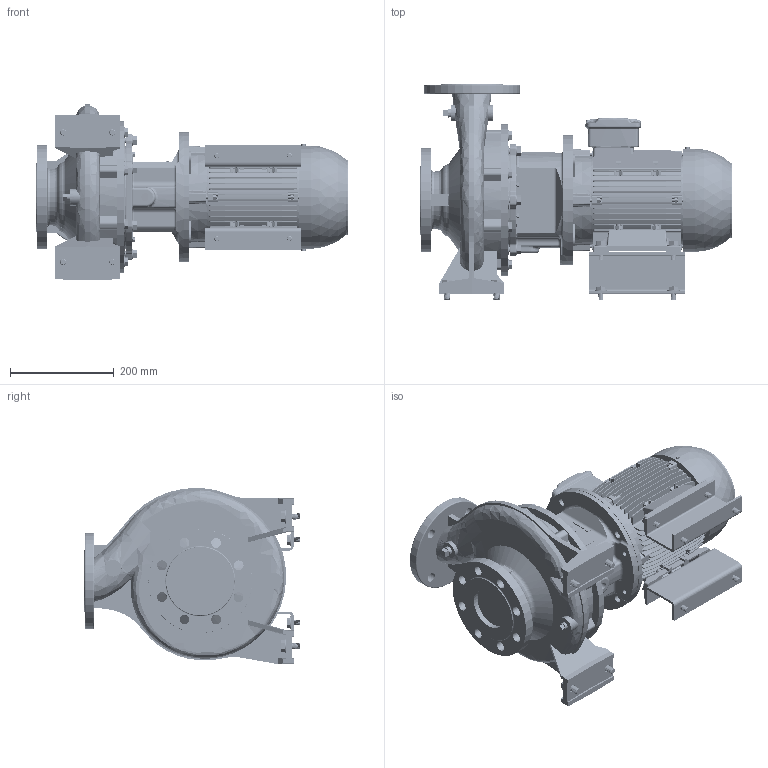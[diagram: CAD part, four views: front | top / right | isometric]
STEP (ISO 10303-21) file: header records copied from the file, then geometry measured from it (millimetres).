
FILE_DESCRIPTION (( 'STEP AP214' ), '1' );
FILE_NAME ('GSD4 65-200_2.2 & 3.0_(100L)_W21.STEP', '2026-07-01T01:39:17', ( '' ), ( '' ), 'SwSTEP 2.0', 'SolidWorks 2024', '' );
FILE_SCHEMA (( 'AUTOMOTIVE_DESIGN' ));
Length unit declared in the file: millimetre
Products named in the file (9): Parametric Flat Washer_M10; Parametric bolt_SFT-A249B; 65-200-100L_ﾃﾞﾌｫﾙﾄ; Parametric bolt_SFT-A253B; 100L ALIE3_W21T_B35; Parametric bolt_SFT-A299B; GSD4 65-200_2.2 & 3.0_(100L)_W21; 140 x 80 - 271472220; Parametric Flat Washer_M12
Assembly tree (28 placements, depth 2):
  GSD4 65-200_2.2 & 3.0_(100L)_W21
    65-200-100L_ﾃﾞﾌｫﾙﾄ
    100L ALIE3_W21T_B35
    140 x 80 - 271472220  x2
    Parametric bolt_SFT-A253B  x4
    Parametric bolt_SFT-A249B  x4
    Parametric bolt_SFT-A299B  x4
    Parametric Flat Washer_M12  x4
    Parametric Flat Washer_M10  x8
Bounding box: 602.1 x 418 x 340.11 mm (x, y, z)
Volume: 18970245.9 mm3; surface area: 1555735.2 mm2
Topology: 31 solids, 31 shells, 4392 faces, 11438 edges, 7356 vertices
Faces by surface type: plane 2397, cylinder 1184, torus 316, bspline 239, cone 238, sphere 18
Entity records: 189429 total; most frequent: CARTESIAN_POINT 96599, ORIENTED_EDGE 20126, DIRECTION 17943, EDGE_CURVE 10063, VERTEX_POINT 6476, VECTOR 6207, LINE 6207, AXIS2_PLACEMENT_3D 5868
